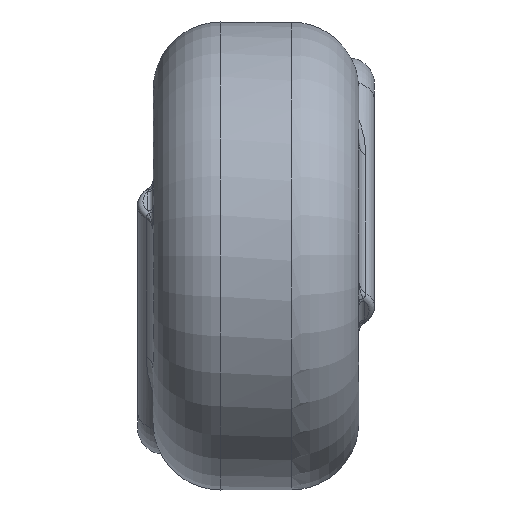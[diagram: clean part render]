
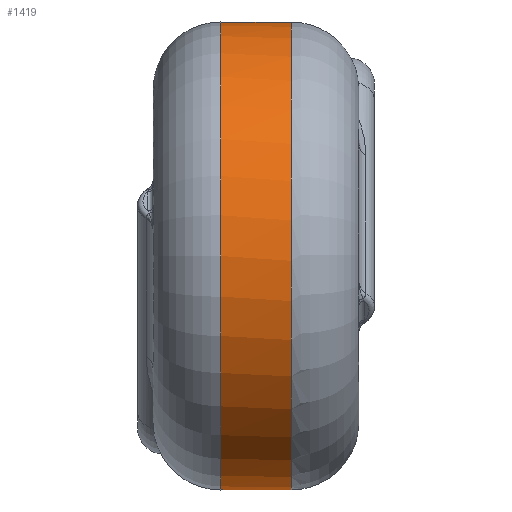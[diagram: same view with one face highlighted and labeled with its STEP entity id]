
A CAD part, left-side view. The second image highlights one B-rep face of the part: STEP entity #1419.
In plain terms, the highlighted cylindrical face has radius 8.65 mm (diameter 17.3 mm), a full revolution.
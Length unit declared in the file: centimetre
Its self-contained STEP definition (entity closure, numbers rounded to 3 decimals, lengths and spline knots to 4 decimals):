
#980=CARTESIAN_POINT('',(0.865,0.43,0.));
#981=VERTEX_POINT('',#980);
#982=CARTESIAN_POINT('',(0.0,0.43,0.0));
#983=DIRECTION('',(0.0,1.0,0.0));
#984=DIRECTION('',(-1.0,0.0,0.0));
#985=AXIS2_PLACEMENT_3D('',#982,#983,#984);
#986=CIRCLE('',#985,0.865);
#987=EDGE_CURVE('',#981,#981,#986,.T.);
#1310=CARTESIAN_POINT('',(0.865,0.169,0.));
#1311=VERTEX_POINT('',#1310);
#1312=CARTESIAN_POINT('',(0.0,0.169,0.0));
#1313=DIRECTION('',(0.0,-1.0,0.0));
#1314=DIRECTION('',(-1.0,0.0,0.0));
#1315=AXIS2_PLACEMENT_3D('',#1312,#1313,#1314);
#1316=CIRCLE('',#1315,0.865);
#1317=EDGE_CURVE('',#1311,#1311,#1316,.T.);
#1408=CARTESIAN_POINT('',(0.0,0.2995,0.0));
#1409=DIRECTION('',(0.0,1.0,0.0));
#1410=DIRECTION('',(-1.0,0.0,0.0));
#1411=AXIS2_PLACEMENT_3D('',#1408,#1409,#1410);
#1412=CYLINDRICAL_SURFACE('',#1411,0.865);
#1413=ORIENTED_EDGE('',*,*,#987,.F.);
#1414=EDGE_LOOP('',(#1413));
#1415=FACE_OUTER_BOUND('',#1414,.T.);
#1416=ORIENTED_EDGE('',*,*,#1317,.F.);
#1417=EDGE_LOOP('',(#1416));
#1418=FACE_BOUND('',#1417,.T.);
#1419=ADVANCED_FACE('',(#1415,#1418),#1412,.T.);
